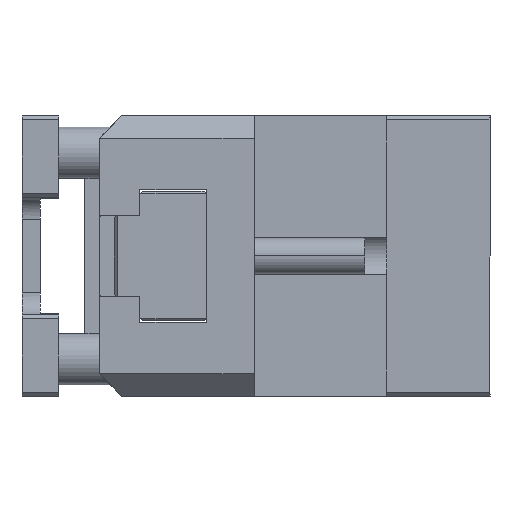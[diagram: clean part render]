
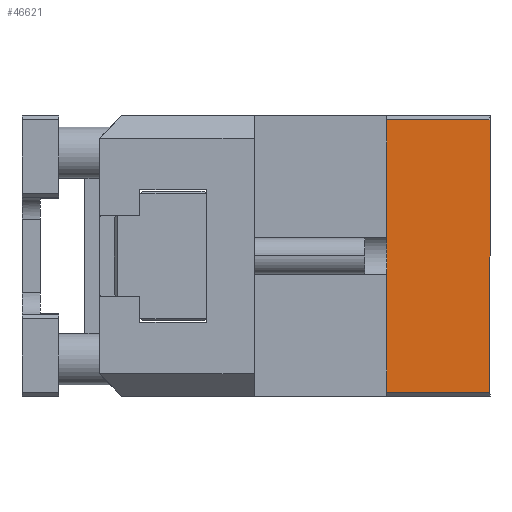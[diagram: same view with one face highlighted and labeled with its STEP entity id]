
A CAD part, left-side view. The second image highlights one B-rep face of the part: STEP entity #46621.
In plain terms, the highlighted planar face has unit normal (-1, 0, 0).
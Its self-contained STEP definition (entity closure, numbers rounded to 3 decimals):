
#322 = DIRECTION ( 'NONE',  ( 0., 0., -1. ) ) ;
#3259 = VERTEX_POINT ( 'NONE', #17658 ) ;
#3617 = LINE ( 'NONE', #12101, #7374 ) ;
#3671 = DIRECTION ( 'NONE',  ( 1., 0., 0. ) ) ;
#4551 = VERTEX_POINT ( 'NONE', #50193 ) ;
#4927 = ORIENTED_EDGE ( 'NONE', *, *, #30784, .F. ) ;
#7374 = VECTOR ( 'NONE', #47544, 1000. ) ;
#12026 = CARTESIAN_POINT ( 'NONE',  ( -17.5, 19., -18.5 ) ) ;
#12101 = CARTESIAN_POINT ( 'NONE',  ( -17.5, 0., 19. ) ) ;
#13960 = ORIENTED_EDGE ( 'NONE', *, *, #26194, .F. ) ;
#15213 = CARTESIAN_POINT ( 'NONE',  ( -17.5, 19., 18.5 ) ) ;
#16010 = DIRECTION ( 'NONE',  ( 0., 1., 0. ) ) ;
#17658 = CARTESIAN_POINT ( 'NONE',  ( -17.5, 0., -18.5 ) ) ;
#19880 = LINE ( 'NONE', #12026, #39905 ) ;
#20175 = CARTESIAN_POINT ( 'NONE',  ( -17.5, 19., 19. ) ) ;
#21691 = EDGE_CURVE ( 'NONE', #47510, #34477, #46298, .T. ) ;
#23574 = AXIS2_PLACEMENT_3D ( 'NONE', #51484, #3671, #31561 ) ;
#26194 = EDGE_CURVE ( 'NONE', #34477, #3259, #3617, .T. ) ;
#26946 = EDGE_CURVE ( 'NONE', #47510, #4551, #49772, .T. ) ;
#28512 = VECTOR ( 'NONE', #322, 1000. ) ;
#30784 = EDGE_CURVE ( 'NONE', #3259, #4551, #19880, .T. ) ;
#31394 = PLANE ( 'NONE',  #23574 ) ;
#31528 = CARTESIAN_POINT ( 'NONE',  ( -17.5, 19., 18.5 ) ) ;
#31561 = DIRECTION ( 'NONE',  ( 0., 0., -1. ) ) ;
#32006 = ORIENTED_EDGE ( 'NONE', *, *, #26946, .T. ) ;
#34477 = VERTEX_POINT ( 'NONE', #36088 ) ;
#35552 = DIRECTION ( 'NONE',  ( 0., -1., 0. ) ) ;
#36088 = CARTESIAN_POINT ( 'NONE',  ( -17.5, 0., 18.5 ) ) ;
#36771 = EDGE_LOOP ( 'NONE', ( #4927, #13960, #48013, #32006 ) ) ;
#39905 = VECTOR ( 'NONE', #16010, 1000. ) ;
#44325 = FACE_OUTER_BOUND ( 'NONE', #36771, .T. ) ;
#46298 = LINE ( 'NONE', #31528, #47574 ) ;
#46621 = ADVANCED_FACE ( 'NONE', ( #44325 ), #31394, .F. ) ;
#47510 = VERTEX_POINT ( 'NONE', #15213 ) ;
#47544 = DIRECTION ( 'NONE',  ( 0., 0., -1. ) ) ;
#47574 = VECTOR ( 'NONE', #35552, 1000. ) ;
#48013 = ORIENTED_EDGE ( 'NONE', *, *, #21691, .F. ) ;
#49772 = LINE ( 'NONE', #20175, #28512 ) ;
#50193 = CARTESIAN_POINT ( 'NONE',  ( -17.5, 19., -18.5 ) ) ;
#51484 = CARTESIAN_POINT ( 'NONE',  ( -17.5, 19., 19. ) ) ;
